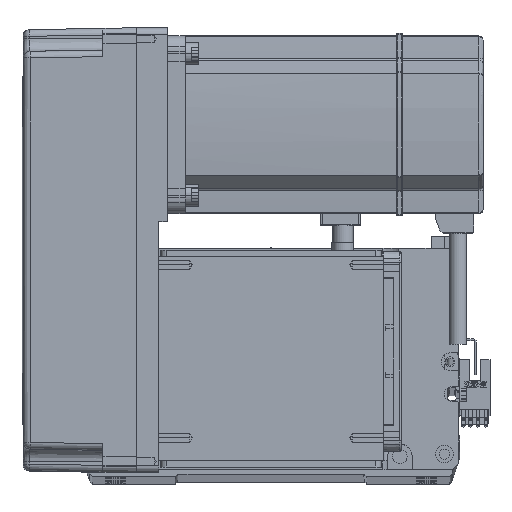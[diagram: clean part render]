
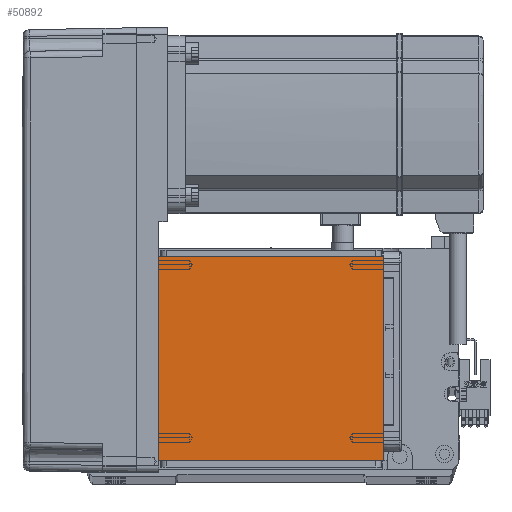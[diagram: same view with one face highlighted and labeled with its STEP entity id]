
A CAD part, top view. The second image highlights one B-rep face of the part: STEP entity #50892.
In plain terms, the highlighted planar face has unit normal (0, 0, 1).
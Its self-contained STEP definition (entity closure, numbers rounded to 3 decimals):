
#1318 = EDGE_LOOP ( 'NONE', ( #36705, #38856, #30892, #29817 ) ) ;
#2909 = DIRECTION ( 'NONE',  ( 0., 1., 0. ) ) ;
#3912 = CARTESIAN_POINT ( 'NONE',  ( -50.5, 122., 115. ) ) ;
#5208 = PLANE ( 'NONE',  #34702 ) ;
#7854 = CARTESIAN_POINT ( 'NONE',  ( -50.5, 20., 115. ) ) ;
#9592 = VERTEX_POINT ( 'NONE', #7854 ) ;
#9994 = DIRECTION ( 'NONE',  ( 0., 0., 1. ) ) ;
#13947 = DIRECTION ( 'NONE',  ( 1., 0., 0. ) ) ;
#14836 = DIRECTION ( 'NONE',  ( 1., 0., 0. ) ) ;
#15256 = VERTEX_POINT ( 'NONE', #38855 ) ;
#16895 = CARTESIAN_POINT ( 'NONE',  ( 50.5, 122., 115. ) ) ;
#18320 = DIRECTION ( 'NONE',  ( 0., -1., 0. ) ) ;
#22969 = EDGE_CURVE ( 'NONE', #26137, #54313, #34605, .T. ) ;
#26137 = VERTEX_POINT ( 'NONE', #40422 ) ;
#28729 = FACE_OUTER_BOUND ( 'NONE', #1318, .T. ) ;
#29050 = DIRECTION ( 'NONE',  ( -1., 0., 0. ) ) ;
#29817 = ORIENTED_EDGE ( 'NONE', *, *, #56415, .T. ) ;
#30892 = ORIENTED_EDGE ( 'NONE', *, *, #32211, .F. ) ;
#32211 = EDGE_CURVE ( 'NONE', #15256, #9592, #33907, .T. ) ;
#33907 = LINE ( 'NONE', #57242, #49636 ) ;
#34605 = LINE ( 'NONE', #57443, #45801 ) ;
#34702 = AXIS2_PLACEMENT_3D ( 'NONE', #38732, #9994, #14836 ) ;
#36705 = ORIENTED_EDGE ( 'NONE', *, *, #22969, .F. ) ;
#38732 = CARTESIAN_POINT ( 'NONE',  ( 0., 0., 115. ) ) ;
#38855 = CARTESIAN_POINT ( 'NONE',  ( 50.5, 20., 115. ) ) ;
#38856 = ORIENTED_EDGE ( 'NONE', *, *, #46837, .T. ) ;
#40422 = CARTESIAN_POINT ( 'NONE',  ( -50.5, 111.5, 115. ) ) ;
#45801 = VECTOR ( 'NONE', #13947, 1000. ) ;
#45944 = LINE ( 'NONE', #16895, #57952 ) ;
#46837 = EDGE_CURVE ( 'NONE', #26137, #9592, #52696, .T. ) ;
#47404 = VECTOR ( 'NONE', #18320, 1000. ) ;
#49636 = VECTOR ( 'NONE', #29050, 1000. ) ;
#50892 = ADVANCED_FACE ( 'NONE', ( #28729 ), #5208, .T. ) ;
#52696 = LINE ( 'NONE', #3912, #47404 ) ;
#54313 = VERTEX_POINT ( 'NONE', #61903 ) ;
#56415 = EDGE_CURVE ( 'NONE', #15256, #54313, #45944, .T. ) ;
#57242 = CARTESIAN_POINT ( 'NONE',  ( -70.004, 20., 115. ) ) ;
#57443 = CARTESIAN_POINT ( 'NONE',  ( -70.004, 111.5, 115. ) ) ;
#57952 = VECTOR ( 'NONE', #2909, 1000. ) ;
#61903 = CARTESIAN_POINT ( 'NONE',  ( 50.5, 111.5, 115. ) ) ;
